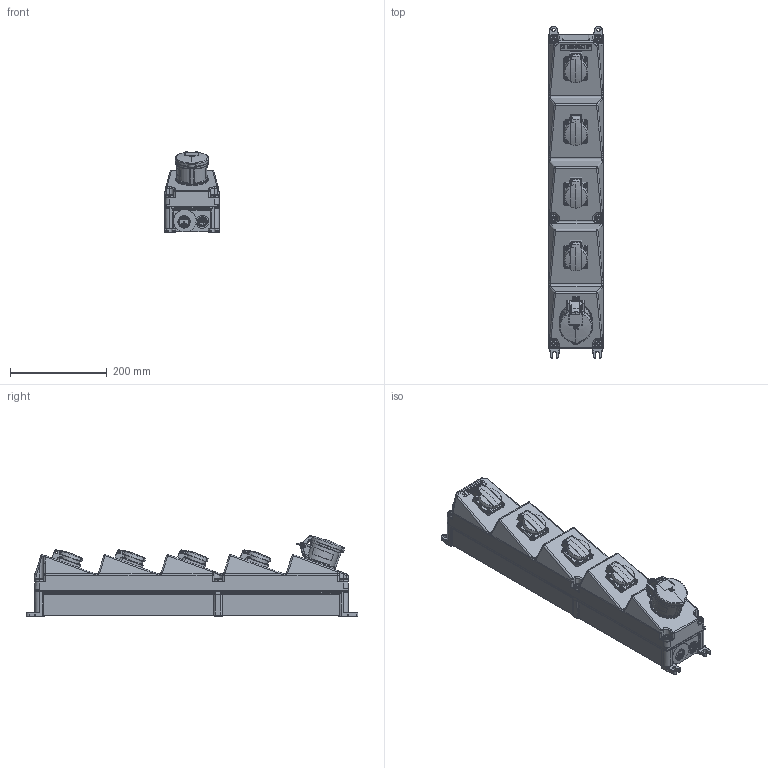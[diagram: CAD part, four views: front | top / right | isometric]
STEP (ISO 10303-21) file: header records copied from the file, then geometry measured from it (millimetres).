
FILE_DESCRIPTION((''),'2;1');
FILE_NAME('960006-1_ASM_1_ASM','2017-11-27T',('kremer'),('MENNEKES'),'PRO/ENGINEER BY PARAMETRIC TECHNOLOGY CORPORATION, 2015440','PRO/ENGINEER BY PARAMETRIC TECHNOLOGY CORPORATION, 2015440','');
FILE_SCHEMA(('AUTOMOTIVE_DESIGN { 1 0 10303 214 1 1 1 1 }'));
Products named in the file (5): S_SW_O_GRAU_1; BAUTEIL_DUMMY__1; RAPIDO_16_5_44_61_ROT_1; 4LOCH_SCHUKO_44_BLAU_1; 960006-1_ASM_1_ASM
Assembly tree (7 placements, depth 2):
  960006-1_ASM_1_ASM
    S_SW_O_GRAU_1
    BAUTEIL_DUMMY__1
    RAPIDO_16_5_44_61_ROT_1
    4LOCH_SCHUKO_44_BLAU_1  x4
Bounding box: 113.06 x 688.04 x 167.83 mm (x, y, z)
Volume: 7725402 mm3; surface area: 431851.8 mm2
Topology: 6 solids, 6 shells, 5991 faces, 15995 edges, 9989 vertices
Faces by surface type: cylinder 1808, plane 1788, bspline 923, torus 847, cone 358, sphere 187, extrusion 80
Entity records: 238789 total; most frequent: CARTESIAN_POINT 76613, ORIENTED_EDGE 24136, DIRECTION 20116, PRESENTATION_STYLE_ASSIGNMENT 14670, STYLED_ITEM 12118, CURVE_STYLE 12079, EDGE_CURVE 12068, AXIS2_PLACEMENT_3D 7686
